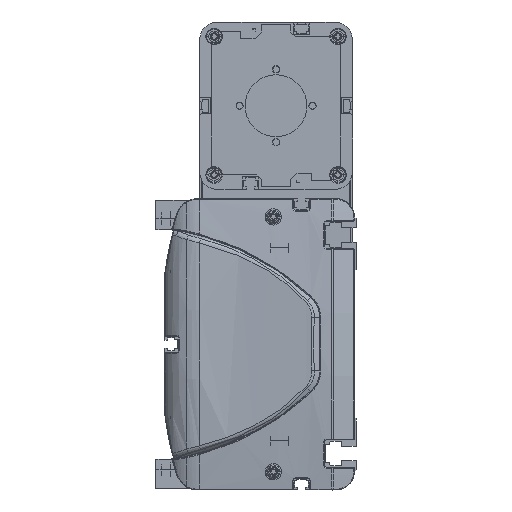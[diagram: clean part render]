
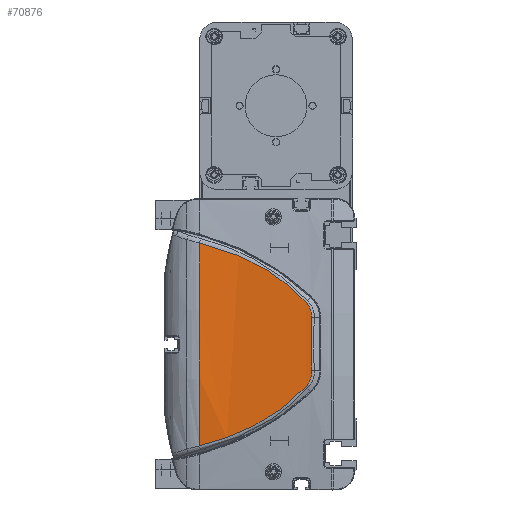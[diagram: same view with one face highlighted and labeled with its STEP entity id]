
A CAD part, left-side view. The second image highlights one B-rep face of the part: STEP entity #70876.
In plain terms, the highlighted cylindrical face has radius 600 mm (diameter 1200 mm), a partial arc.
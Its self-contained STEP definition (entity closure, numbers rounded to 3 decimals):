
#65906=CARTESIAN_POINT('',(-12.406,86.,
55.736));
#65907=CARTESIAN_POINT('',(-12.529,80.495,
54.41));
#65908=CARTESIAN_POINT('',(-12.828,69.636,
51.114));
#65909=CARTESIAN_POINT('',(-13.389,54.079,
44.179));
#65910=CARTESIAN_POINT('',(-14.01,39.709,
34.979));
#65911=CARTESIAN_POINT('',(-14.395,31.353,
27.243));
#65912=CARTESIAN_POINT('',(-14.555,27.451,
23.113));
#65914=CARTESIAN_POINT('',(-14.555,27.451,
23.113));
#65915=CARTESIAN_POINT('',(-14.641,25.336,
20.875));
#65916=CARTESIAN_POINT('',(-14.745,24.202,
17.745));
#65917=CARTESIAN_POINT('',(-14.821,24.351,
14.67));
#65919=CARTESIAN_POINT('',(-14.821,24.351,
14.67));
#65920=CARTESIAN_POINT('',(-14.9,24.51,
11.413));
#65921=CARTESIAN_POINT('',(-15.007,24.721,
4.895));
#65922=CARTESIAN_POINT('',(-15.007,24.721,
-4.895));
#65923=CARTESIAN_POINT('',(-14.9,24.51,
-11.413));
#65924=CARTESIAN_POINT('',(-14.821,24.351,
-14.67));
#65926=CARTESIAN_POINT('',(-14.821,24.351,
-14.67));
#65927=CARTESIAN_POINT('',(-14.745,24.202,
-17.745));
#65928=CARTESIAN_POINT('',(-14.641,25.337,
-20.876));
#65929=CARTESIAN_POINT('',(-14.555,27.451,
-23.113));
#65931=CARTESIAN_POINT('',(-14.555,27.451,
-23.113));
#65932=CARTESIAN_POINT('',(-14.395,31.353,
-27.243));
#65933=CARTESIAN_POINT('',(-14.01,39.709,
-34.979));
#65934=CARTESIAN_POINT('',(-13.389,54.079,
-44.179));
#65935=CARTESIAN_POINT('',(-12.828,69.636,
-51.114));
#65936=CARTESIAN_POINT('',(-12.529,80.495,
-54.41));
#65937=CARTESIAN_POINT('',(-12.406,86.,
-55.736));
#65939=CARTESIAN_POINT('',(585.,86.,0.));
#65940=DIRECTION('',(0.,1.,0.));
#65941=DIRECTION('',(-0.996,0.,-0.093));
#65942=AXIS2_PLACEMENT_3D('',#65939,#65940,#65941);
#65955=CARTESIAN_POINT('',(-12.406,86.,
55.736));
#66462=VERTEX_POINT('',#65955);
#66463=CARTESIAN_POINT('',(-12.406,86.,
-55.736));
#66464=VERTEX_POINT('',#66463);
#66516=VERTEX_POINT('',#65912);
#66517=VERTEX_POINT('',#65917);
#66518=VERTEX_POINT('',#65924);
#66519=VERTEX_POINT('',#65929);
#70858=CARTESIAN_POINT('',(585.,87.45,0.));
#70859=DIRECTION('',(0.,-1.,0.));
#70860=DIRECTION('',(0.,0.,-1.));
#70861=AXIS2_PLACEMENT_3D('',#70858,#70859,#70860);
#70862=CYLINDRICAL_SURFACE('',#70861,600.);
#70864=ORIENTED_EDGE('',*,*,#70863,.T.);
#70866=ORIENTED_EDGE('',*,*,#70865,.T.);
#70867=ORIENTED_EDGE('',*,*,#70848,.T.);
#70869=ORIENTED_EDGE('',*,*,#70868,.T.);
#70871=ORIENTED_EDGE('',*,*,#70870,.T.);
#70873=ORIENTED_EDGE('',*,*,#70872,.T.);
#70874=EDGE_LOOP('',(#70864,#70866,#70867,#70869,#70871,#70873));
#70875=FACE_OUTER_BOUND('',#70874,.F.);
#70876=ADVANCED_FACE('',(#70875),#70862,.T.);
#65913=B_SPLINE_CURVE_WITH_KNOTS('',3,(#65906,#65907,#65908,#65909,#65910,
#65911,#65912),.UNSPECIFIED.,.F.,.F.,(4,1,1,1,4),(0.,0.25,0.5,0.75,
1.),.UNSPECIFIED.);
#65918=B_SPLINE_CURVE_WITH_KNOTS('',3,(#65914,#65915,#65916,#65917),
.UNSPECIFIED.,.F.,.F.,(4,4),(0.,1.),.UNSPECIFIED.);
#65925=B_SPLINE_CURVE_WITH_KNOTS('',3,(#65919,#65920,#65921,#65922,#65923,
#65924),.UNSPECIFIED.,.F.,.F.,(4,1,1,4),(0.,0.333,
0.667,1.),.UNSPECIFIED.);
#65930=B_SPLINE_CURVE_WITH_KNOTS('',3,(#65926,#65927,#65928,#65929),
.UNSPECIFIED.,.F.,.F.,(4,4),(0.,1.),.UNSPECIFIED.);
#65938=B_SPLINE_CURVE_WITH_KNOTS('',3,(#65931,#65932,#65933,#65934,#65935,
#65936,#65937),.UNSPECIFIED.,.F.,.F.,(4,1,1,1,4),(0.,0.25,0.5,0.75,
1.),.UNSPECIFIED.);
#65943=CIRCLE('',#65942,600.);
#70848=EDGE_CURVE('',#66517,#66518,#65925,.T.);
#70863=EDGE_CURVE('',#66462,#66516,#65913,.T.);
#70865=EDGE_CURVE('',#66516,#66517,#65918,.T.);
#70868=EDGE_CURVE('',#66518,#66519,#65930,.T.);
#70870=EDGE_CURVE('',#66519,#66464,#65938,.T.);
#70872=EDGE_CURVE('',#66464,#66462,#65943,.T.);
